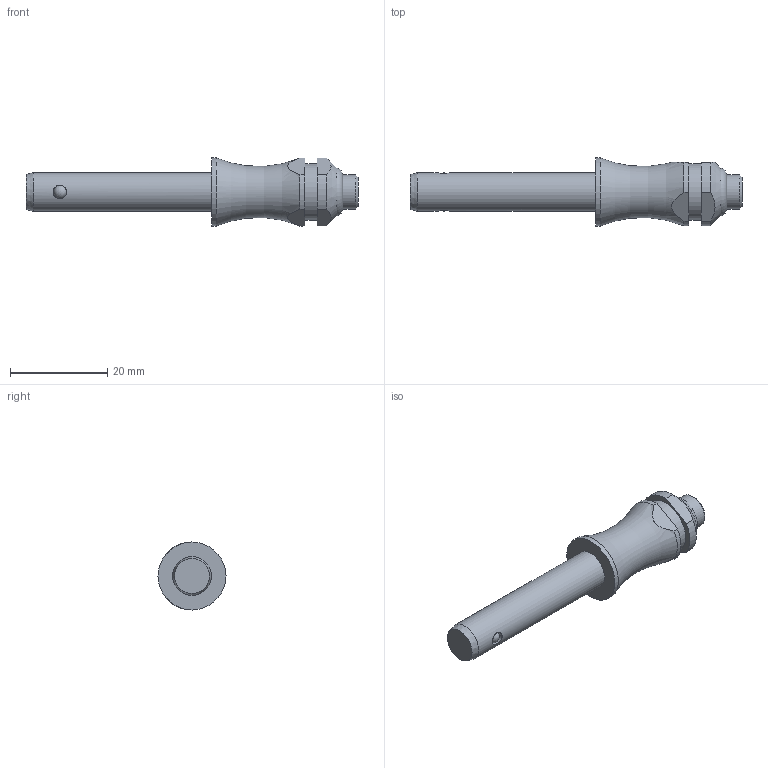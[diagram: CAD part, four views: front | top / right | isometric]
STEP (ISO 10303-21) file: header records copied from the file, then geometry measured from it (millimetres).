
FILE_DESCRIPTION( ( 'STEP AP203' ), '1' );
FILE_NAME( 'C:/Temp/Ganter_Step_05_03_2020/data/3_1/gn113_3/Stainless Steel-Ball lock pin GN 113.3-8-30 (activated).stp', '2020-03-12T08:18:24', ( 'License CC BY-ND 4.0' ), ( 'CADENAS' ), ' ', 'PARTsolutions', ' ' );
FILE_SCHEMA( ( 'CONFIG_CONTROL_DESIGN' ) );
Length unit declared in the file: millimetre
Products named in the file (1): _Stainless Steel-Ball lock pin GN 113.3-8-30 (activated)
Bounding box: 68.35 x 14 x 14 mm (x, y, z)
Volume: 5009.3 mm3; surface area: 2377.6 mm2
Topology: 1 solids, 1 shells, 30 faces, 72 edges, 45 vertices
Faces by surface type: cylinder 12, plane 11, cone 3, torus 2, sphere 2
Full cylindrical faces by diameter (mm): 2.78 x2, 7 x1, 8 x1, 11.6 x1, 14 x1
Entity records: 968 total; most frequent: CARTESIAN_POINT 321, DIRECTION 130, ORIENTED_EDGE 102, AXIS2_PLACEMENT_3D 56, EDGE_CURVE 51, EDGE_LOOP 46, VERTEX_POINT 39, FACE_OUTER_BOUND 38
